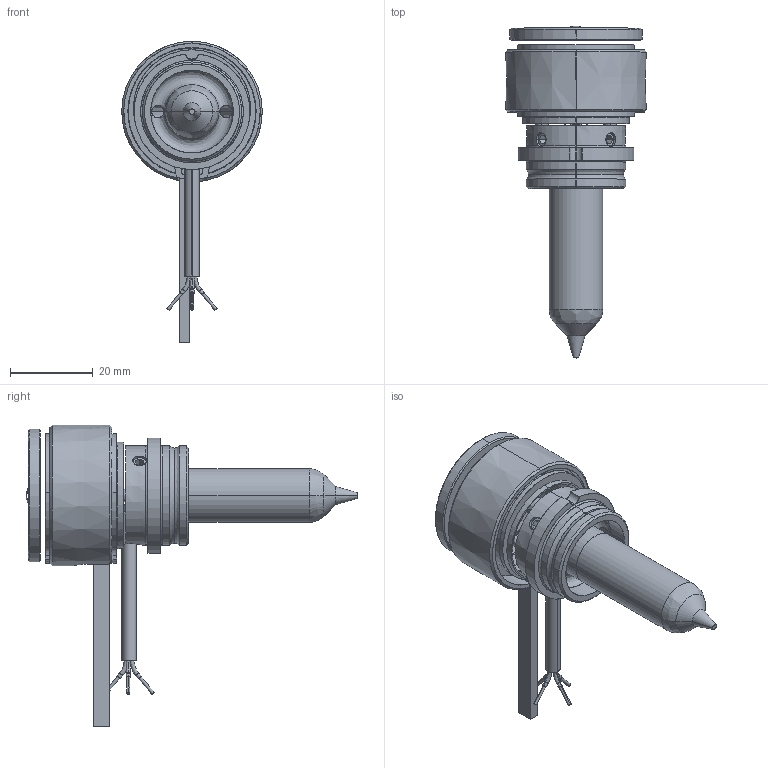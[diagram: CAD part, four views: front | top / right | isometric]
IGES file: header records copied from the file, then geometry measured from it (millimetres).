
Start section: SolidWorks IGES file using analytic representation for surfaces
Global section: file name: C:\Documents and Settings\ws-20\Desktop\TEM\UGGS2520-S-0 [Øf-1.30].IGS; native system: SolidWorks 2012; preprocessor: SolidWorks 2012; author: ws-20; date: 120516.092950; units: millimetre
Bounding box: 34 x 80.3 x 72.9 mm (x, y, z)
Surface area: 15776.9 mm2 (no closed solid volume)
Topology: 0 solids, 0 shells, 204 faces, 2953 edges, 2947 vertices
Faces by surface type: revolution 127, bspline 77
